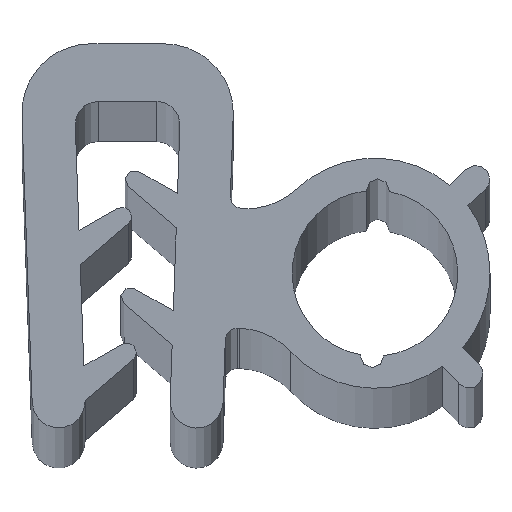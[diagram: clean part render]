
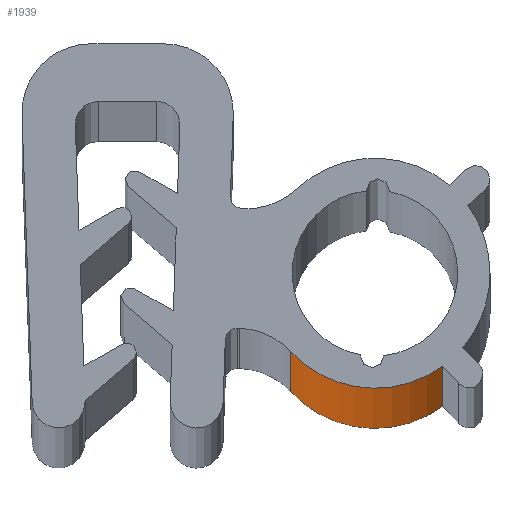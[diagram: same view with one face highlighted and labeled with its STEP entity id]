
A CAD part, top view. The second image highlights one B-rep face of the part: STEP entity #1939.
In plain terms, the highlighted cylindrical face has radius 5 mm (diameter 10 mm), a partial arc.
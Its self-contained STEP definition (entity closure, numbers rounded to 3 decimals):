
#20 = VERTEX_POINT ( 'NONE', #1455 ) ;
#243 = AXIS2_PLACEMENT_3D ( 'NONE', #1245, #1249, #1278 ) ;
#244 = AXIS2_PLACEMENT_3D ( 'NONE', #1267, #1391, #1216 ) ;
#344 = AXIS2_PLACEMENT_3D ( 'NONE', #606, #491, #510 ) ;
#426 = VERTEX_POINT ( 'NONE', #1317 ) ;
#427 = VERTEX_POINT ( 'NONE', #1306 ) ;
#431 = VERTEX_POINT ( 'NONE', #1308 ) ;
#491 = DIRECTION ( 'NONE',  ( 0., 0., 1. ) ) ;
#510 = DIRECTION ( 'NONE',  ( 1., 0., 0. ) ) ;
#606 = CARTESIAN_POINT ( 'NONE',  ( 10.751, -7.471, -1000. ) ) ;
#657 = EDGE_CURVE ( 'NONE', #426, #431, #900, .T. ) ;
#659 = EDGE_CURVE ( 'NONE', #20, #431, #902, .T. ) ;
#660 = EDGE_CURVE ( 'NONE', #427, #20, #898, .T. ) ;
#661 = EDGE_CURVE ( 'NONE', #427, #426, #915, .T. ) ;
#763 = ORIENTED_EDGE ( 'NONE', *, *, #659, .F. ) ;
#764 = ORIENTED_EDGE ( 'NONE', *, *, #660, .F. ) ;
#765 = ORIENTED_EDGE ( 'NONE', *, *, #661, .T. ) ;
#767 = ORIENTED_EDGE ( 'NONE', *, *, #657, .T. ) ;
#898 = LINE ( 'NONE', #1279, #922 ) ;
#900 = LINE ( 'NONE', #1226, #905 ) ;
#902 = CIRCLE ( 'NONE', #243, 5. ) ;
#905 = VECTOR ( 'NONE', #1382, 1000. ) ;
#915 = CIRCLE ( 'NONE', #244, 5. ) ;
#922 = VECTOR ( 'NONE', #1416, 1000. ) ;
#1147 = FACE_OUTER_BOUND ( 'NONE', #1633, .T. ) ;
#1152 = CYLINDRICAL_SURFACE ( 'NONE', #344, 5. ) ;
#1216 = DIRECTION ( 'NONE',  ( 1., 0., 0. ) ) ;
#1226 = CARTESIAN_POINT ( 'NONE',  ( 13.696, -11.511, -1000. ) ) ;
#1245 = CARTESIAN_POINT ( 'NONE',  ( 10.751, -7.471, 0. ) ) ;
#1249 = DIRECTION ( 'NONE',  ( 0., 0., 1. ) ) ;
#1267 = CARTESIAN_POINT ( 'NONE',  ( 10.751, -7.471, -1000. ) ) ;
#1278 = DIRECTION ( 'NONE',  ( 1., 0., 0. ) ) ;
#1279 = CARTESIAN_POINT ( 'NONE',  ( 7.094, -10.88, -1000. ) ) ;
#1306 = CARTESIAN_POINT ( 'NONE',  ( 7.094, -10.88, -1000. ) ) ;
#1308 = CARTESIAN_POINT ( 'NONE',  ( 13.696, -11.511, 0. ) ) ;
#1317 = CARTESIAN_POINT ( 'NONE',  ( 13.696, -11.511, -1000. ) ) ;
#1382 = DIRECTION ( 'NONE',  ( 0., 0., 1. ) ) ;
#1391 = DIRECTION ( 'NONE',  ( 0., 0., 1. ) ) ;
#1416 = DIRECTION ( 'NONE',  ( 0., 0., 1. ) ) ;
#1455 = CARTESIAN_POINT ( 'NONE',  ( 7.094, -10.88, 0. ) ) ;
#1633 = EDGE_LOOP ( 'NONE', ( #763, #764, #765, #767 ) ) ;
#1939 = ADVANCED_FACE ( 'NONE', ( #1147 ), #1152, .T. ) ;
